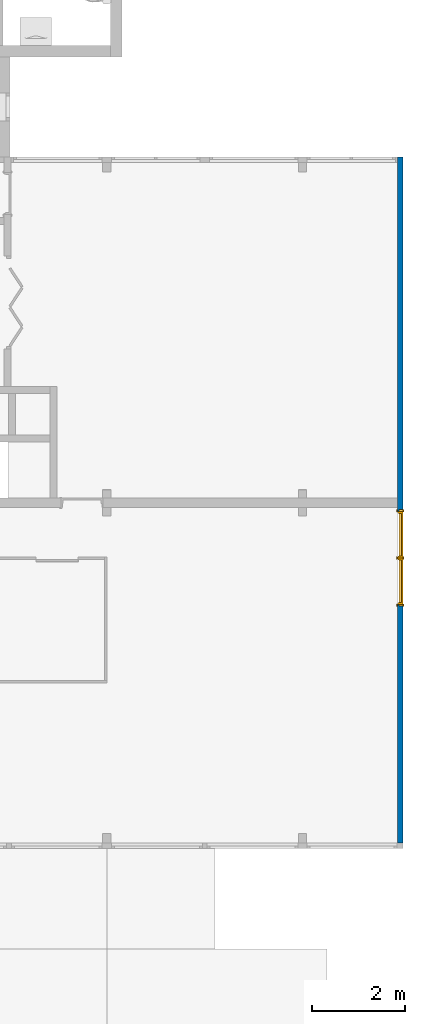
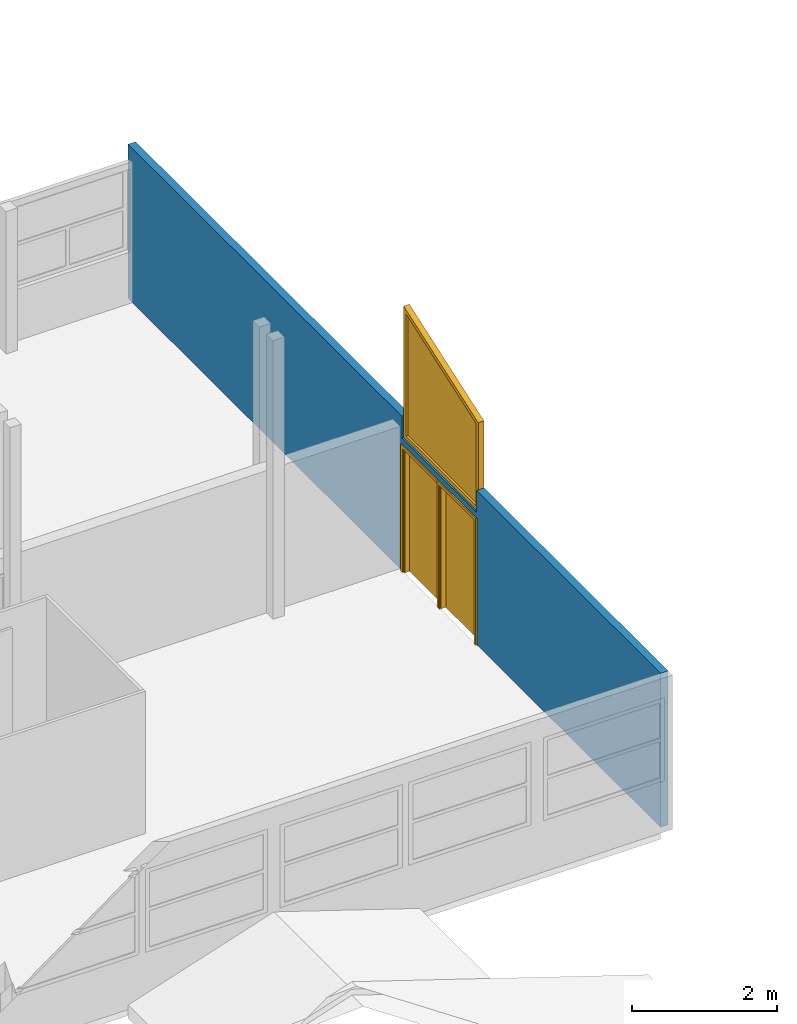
# One storey, part 26 of 48: 2 doors, 1 wall, 1 window, 3 openings.
"""IFC2X3 building model written with IfcOpenShell, lengths in millimetres."""

from ifc_helpers import new_model, entity, si_unit, converted_unit, derived_unit, money_unit, direction, frame, origin_with_axes, place, context, subcontext, project, spatial, open_shell, faceted_brep, surface_model, source, transform, mapped, material, type_object, element, fill, save


model = new_model("IFC2X3")

# Units and contexts
model_context = context("Model", 3, precision=0.01, world=origin_with_axes(), true_north=direction((0.0, 1.0)))
body_context = subcontext(model_context, "Body", "Model", "MODEL_VIEW")
ifc_project = project(units=[si_unit("LENGTHUNIT", "METRE", prefix="MILLI"), si_unit("AREAUNIT", "SQUARE_METRE"), si_unit("VOLUMEUNIT", "CUBIC_METRE"), converted_unit("PLANEANGLEUNIT", "DEGREE", entity("IfcPlaneAngleMeasure", 0.0174532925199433), si_unit("PLANEANGLEUNIT", "RADIAN"), dimensions=[0, 0, 0, 0, 0, 0, 0]), money_unit("USD"), converted_unit("TIMEUNIT", "Year", entity("IfcTimeMeasure", 31557600.0), si_unit("TIMEUNIT", "SECOND"), dimensions=[0, 0, 1, 0, 0, 0, 0]), si_unit("MASSUNIT", "GRAM", prefix="KILO"), si_unit("THERMODYNAMICTEMPERATUREUNIT", "DEGREE_CELSIUS"), si_unit("LUMINOUSINTENSITYUNIT", "LUMEN"), si_unit("ENERGYUNIT", "JOULE", prefix="MEGA"), derived_unit("THERMALCONDUCTANCEUNIT", [(si_unit("POWERUNIT", "WATT"), 1), (si_unit("LENGTHUNIT", "METRE"), -1), (si_unit("THERMODYNAMICTEMPERATUREUNIT", "KELVIN"), -1)]), derived_unit("SPECIFICHEATCAPACITYUNIT", [(si_unit("ENERGYUNIT", "JOULE"), 1), (si_unit("MASSUNIT", "GRAM", prefix="KILO"), -1), (si_unit("THERMODYNAMICTEMPERATUREUNIT", "KELVIN"), -1)]), derived_unit("MASSDENSITYUNIT", [(si_unit("MASSUNIT", "GRAM", prefix="KILO"), 1), (si_unit("VOLUMEUNIT", "CUBIC_METRE"), -1)])], contexts=[model_context])

# Site, building, storey
site_placement = place(None, origin_with_axes())
site = spatial("IfcSite", under=ifc_project, at=site_placement, Name="Site", CompositionType="ELEMENT")
building_placement = place(site_placement, origin_with_axes())
building = spatial("IfcBuilding", under=site, at=building_placement, Name="Building", CompositionType="ELEMENT")
storey_placement = place(building_placement, frame((0.0, 0.0, 3300.0), z_axis=(0.0, 0.0, 1.0), x_axis=(1.0, 0.0, 0.0)))
storey = spatial("IfcBuildingStorey", under=building, at=storey_placement, Name="1 ETG", CompositionType="ELEMENT", Elevation=3300.0)

# Wall, openings, window, doors
ifc_material = material(Name="GENERIC - STRUCTURAL")
wall_type = type_object("IfcWallType", Name="GENERIC - STRUCTURAL 120", PredefinedType="NOTDEFINED")
wall_placement = place(storey_placement, frame((72389.99999999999, 7199.874976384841, 0.0), z_axis=(0.0, 0.0, 1.0), x_axis=(0.0, 1.0, 0.0)))
wall = element("IfcWall", 1, at=wall_placement, inside=storey, type_object=wall_type, material=ifc_material, Name="SW - 001", context=body_context, shape_type="Brep", body=[
    faceted_brep([(7114.97377159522, -119.9999999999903, 2100.0), (7114.97377159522, -119.9999999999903, 0.0), (14720.00043416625, -119.9999999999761, 0.0), (14720.00043416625, -119.9999999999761, 2600.0), (7151.973771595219, -119.9999999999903, 2600.0), (7151.973771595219, -119.9999999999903, 2229.71220870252), (5087.903589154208, -119.9999999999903, 2229.71220870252), (5087.903589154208, -119.9999999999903, 2600.0), (0.0, -120.0000000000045, 2600.0), (0.0, -120.0000000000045, 0.0), (5114.97377159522, -119.9999999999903, 0.0), (5114.97377159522, -119.9999999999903, 2100.0), (6114.97377159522, -119.9999999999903, 2100.0), (7114.97377159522, 0.0, 2100.0), (7114.97377159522, 0.0, 0.0), (14720.00043416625, 0.0, 0.0), (14720.00043416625, 0.0, 2600.0), (7151.973771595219, 0.0, 2600.0), (7151.973771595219, 0.0, 2229.71220870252), (5087.903589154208, 0.0, 2229.71220870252), (5087.903589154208, 0.0, 2600.0), (-0.000212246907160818, 0.0, 2600.0), (-0.000212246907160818, 0.0, 0.0), (5114.97377159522, 0.0, 0.0), (5114.97377159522, 0.0, 2100.0), (6114.97377159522, 0.0, 2100.0)], [[[0, 1, 2, 3, 4, 5, 6, 7, 8, 9, 10, 11, 12]], [[1, 0, 13, 14]], [[1, 14, 15, 2]], [[3, 2, 15, 16]], [[3, 16, 17, 4]], [[17, 18, 5, 4]], [[18, 19, 6, 5]], [[6, 19, 20, 7]], [[21, 8, 7, 20]], [[8, 21, 22, 9]], [[10, 9, 22, 23]], [[10, 23, 24, 11]], [[25, 13, 0, 12, 11, 24]], [[13, 25, 24, 23, 22, 21, 20, 19, 18, 17, 16, 15, 14]]]),
])
opening_1_placement = place(wall_placement, frame((6614.973771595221, 0.0, 0.0), z_axis=(0.0, 0.0, 1.0), x_axis=(1.0, 0.0, 0.0)))
opening_1 = element("IfcOpeningElement", 2, at=opening_1_placement, cuts=wall, Name="DOO - 002", context=body_context, shape_type="Brep", body=[
    faceted_brep([(500.0, -121.0000000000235, 0.0), (500.0, -121.0000000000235, 2100.0), (-500.0, -121.0000000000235, 2100.0), (-500.0, -121.0000000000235, 0.0), (537.0000000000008, -121.0000000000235, 0.0), (537.0000000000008, -121.0000000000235, 2137.0), (-537.0000000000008, -121.0000000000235, 2137.0), (-537.0000000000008, -121.0000000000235, 0.0), (500.0, -119.9999999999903, 0.0), (-500.0, -119.9999999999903, 0.0), (-500.0, 0.0, 0.0), (-500.0, 1.000000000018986, 0.0), (500.0, 1.000000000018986, 0.0), (500.0, 0.0, 0.0), (537.0000000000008, -119.9999999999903, 0.0), (537.0000000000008, -119.9999999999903, 2137.0), (-537.0000000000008, -119.9999999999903, 2137.0), (-537.0000000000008, -119.9999999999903, 0.0), (-500.0, -119.9999999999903, 2100.0), (-500.0, 0.0, 2100.0), (-537.0000000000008, 0.0, 0.0), (-537.0000000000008, 1.000000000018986, 0.0), (-537.0000000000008, 1.000000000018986, 2137.0), (537.0000000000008, 1.000000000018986, 2137.0), (537.0000000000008, 1.000000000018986, 0.0), (537.0000000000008, 0.0, 0.0), (500.0, -119.9999999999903, 2100.0), (500.0, 0.0, 2100.0), (537.0000000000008, 0.0, 2137.0), (-537.0000000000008, 0.0, 2137.0)], [[[0, 1, 2, 3]], [[2, 1, 0, 4, 5, 6, 7, 3]], [[8, 0, 3, 9, 10, 11, 12, 13]], [[0, 8, 14, 4]], [[14, 15, 5, 4]], [[15, 16, 6, 5]], [[16, 17, 7, 6]], [[9, 3, 7, 17]], [[9, 18, 19, 10]], [[11, 10, 20, 21]], [[12, 11, 21, 22, 23, 24]], [[13, 12, 24, 25]], [[26, 8, 13, 27]], [[8, 26, 18, 9, 17, 16, 15, 14]], [[18, 26, 27, 19]], [[19, 27, 13, 25, 28, 29, 20, 10]], [[20, 29, 22, 21]], [[29, 28, 23, 22]], [[28, 25, 24, 23]]]),
])
opening_2_placement = place(wall_placement, frame((6119.938680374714, 0.0, 2229.71220870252), z_axis=(0.0, 0.0, 1.0), x_axis=(1.0, 0.0, 0.0)))
opening_2 = element("IfcOpeningElement", 3, at=opening_2_placement, cuts=wall, Name="WD - 001", context=body_context, shape_type="Brep", body=[
    faceted_brep([(1032.035091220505, 1.000000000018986, 2217.96647388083), (1032.035091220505, 1.000000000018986, 0.0), (-1032.035091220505, 1.000000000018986, 0.0), (-1032.035091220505, 1.000000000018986, 1500.0), (1032.035091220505, -121.0000000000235, 2217.96647388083), (1032.035091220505, -121.0000000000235, 0.0), (-1032.035091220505, -121.0000000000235, 0.0), (-1032.035091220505, -121.0000000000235, 1500.0)], [[[0, 1, 2, 3]], [[4, 5, 1, 0]], [[5, 6, 2, 1]], [[6, 7, 3, 2]], [[7, 4, 0, 3]], [[6, 5, 4, 7]]]),
])
opening_3_placement = place(wall_placement, frame((5614.973771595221, 0.0, 0.0), z_axis=(0.0, 0.0, 1.0), x_axis=(1.0, 0.0, 0.0)))
opening_3 = element("IfcOpeningElement", 4, at=opening_3_placement, cuts=wall, Name="DOO - 002", context=body_context, shape_type="Brep", body=[
    faceted_brep([(500.0, -121.0000000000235, 0.0), (500.0, -121.0000000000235, 2100.0), (-500.0, -121.0000000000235, 2100.0), (-500.0, -121.0000000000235, 0.0), (537.0000000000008, -121.0000000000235, 0.0), (537.0000000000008, -121.0000000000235, 2137.0), (-537.0000000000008, -121.0000000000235, 2137.0), (-537.0000000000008, -121.0000000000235, 0.0), (500.0, -119.9999999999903, 0.0), (-500.0, -119.9999999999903, 0.0), (-500.0, 0.0, 0.0), (-500.0, 1.000000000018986, 0.0), (500.0, 1.000000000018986, 0.0), (500.0, 0.0, 0.0), (537.0000000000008, -119.9999999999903, 0.0), (537.0000000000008, -119.9999999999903, 2137.0), (-537.0000000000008, -119.9999999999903, 2137.0), (-537.0000000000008, -119.9999999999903, 0.0), (-500.0, -119.9999999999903, 2100.0), (-500.0, 0.0, 2100.0), (-537.0000000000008, 0.0, 0.0), (-537.0000000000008, 1.000000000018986, 0.0), (-537.0000000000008, 1.000000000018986, 2137.0), (537.0000000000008, 1.000000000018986, 2137.0), (537.0000000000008, 1.000000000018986, 0.0), (537.0000000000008, 0.0, 0.0), (500.0, -119.9999999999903, 2100.0), (500.0, 0.0, 2100.0), (537.0000000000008, 0.0, 2137.0), (-537.0000000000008, 0.0, 2137.0)], [[[0, 1, 2, 3]], [[2, 1, 0, 4, 5, 6, 7, 3]], [[8, 0, 3, 9, 10, 11, 12, 13]], [[0, 8, 14, 4]], [[14, 15, 5, 4]], [[15, 16, 6, 5]], [[16, 17, 7, 6]], [[9, 3, 7, 17]], [[9, 18, 19, 10]], [[11, 10, 20, 21]], [[12, 11, 21, 22, 23, 24]], [[13, 12, 24, 25]], [[26, 8, 13, 27]], [[8, 26, 18, 9, 17, 16, 15, 14]], [[18, 26, 27, 19]], [[19, 27, 13, 25, 28, 29, 20, 10]], [[20, 29, 22, 21]], [[29, 28, 23, 22]], [[28, 25, 24, 23]]]),
])
window_style = type_object("IfcWindowStyle", Name="Vindu med skrå topp", ConstructionType="NOTDEFINED", OperationType="USERDEFINED", ParameterTakesPrecedence=False, Sizeable=False)
shared_shape = source(origin_with_axes(), body_context, "Body", "SurfaceModel", [
    faceted_brep([(966.0350912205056, -92.00000000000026, 2125.130239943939), (1032.035091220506, -92.00000000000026, 2125.130239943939), (1032.035091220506, 0.0, 2125.130239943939), (966.0350912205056, 0.0, 2125.130239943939), (966.0350912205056, -92.0, 66.0), (1032.035091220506, -92.0, 66.0), (1032.035091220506, 0.0, 66.0), (966.0350912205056, 0.0, 66.0)], [[[0, 1, 2, 3]], [[0, 4, 5, 1]], [[1, 5, 6, 2]], [[3, 2, 6, 7]], [[4, 0, 3, 7]], [[5, 4, 7, 6]]]),
    faceted_brep([(-966.0350912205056, -92.0, 66.0), (-1032.035091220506, -92.0, 66.0), (-1032.035091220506, 0.0, 66.0), (-966.0350912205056, 0.0, 66.0), (-966.0350912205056, -92.00000000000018, 1453.078665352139), (-1032.035091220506, -92.00000000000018, 1453.078665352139), (-1032.035091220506, 0.0, 1453.078665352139), (-966.0350912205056, 0.0, 1453.078665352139)], [[[0, 1, 2, 3]], [[0, 4, 5, 1]], [[1, 5, 6, 2]], [[3, 2, 6, 7]], [[4, 0, 3, 7]], [[5, 4, 7, 6]]]),
    faceted_brep([(1032.035091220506, -92.00000000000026, 2217.96647388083), (1032.035091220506, -92.00000000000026, 2125.130239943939), (1032.035091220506, 0.0, 2125.130239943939), (1032.035091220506, 0.0, 2217.96647388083), (-1032.035091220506, -92.00000000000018, 1500.0), (-1032.035091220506, -92.00000000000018, 1453.078665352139), (-966.0350912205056, -92.00000000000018, 1453.078665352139), (966.0350912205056, -92.00000000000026, 2125.130239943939), (966.0350912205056, 0.0, 2125.130239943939), (-966.0350912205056, 0.0, 1453.078665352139), (-1032.035091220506, 0.0, 1453.078665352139), (-1032.035091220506, 0.0, 1500.0)], [[[0, 1, 2, 3]], [[0, 4, 5, 6, 7, 1]], [[1, 7, 8, 2]], [[3, 2, 8, 9, 10, 11]], [[4, 0, 3, 11]], [[5, 4, 11, 10]], [[6, 5, 10, 9]], [[7, 6, 9, 8]]]),
    faceted_brep([(-1032.035091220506, -92.0, 0.0), (-1032.035091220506, -92.0, 66.0), (-1032.035091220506, 0.0, 66.0), (-1032.035091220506, 0.0, 0.0), (1032.035091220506, -92.0, 0.0), (1032.035091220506, -92.0, 66.0), (966.0350912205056, -92.0, 66.0), (-966.0350912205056, -92.0, 66.0), (-966.0350912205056, 0.0, 66.0), (966.0350912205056, 0.0, 66.0), (1032.035091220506, 0.0, 66.0), (1032.035091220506, 0.0, 0.0)], [[[0, 1, 2, 3]], [[0, 4, 5, 6, 7, 1]], [[1, 7, 8, 2]], [[3, 2, 8, 9, 10, 11]], [[4, 0, 3, 11]], [[5, 4, 11, 10]], [[6, 5, 10, 9]], [[7, 6, 9, 8]]]),
    surface_model("IfcShellBasedSurfaceModel", [(966.0350912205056, -56.0, 66.0), (966.0350912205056, -56.00000000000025, 2125.130239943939), (-966.0350912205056, -56.00000000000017, 1453.078665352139), (-966.0350912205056, -56.0, 66.0)], [open_shell([[[0, 1, 2, 3]]])]),
    surface_model("IfcShellBasedSurfaceModel", [(966.0350912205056, -36.00000000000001, 66.0), (-966.0350912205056, -36.00000000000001, 66.0), (-966.0350912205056, -36.00000000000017, 1453.078665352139), (966.0350912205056, -36.00000000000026, 2125.130239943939)], [open_shell([[[0, 1, 2, 3]]])]),
])
window_placement = place(opening_2_placement, frame((-1032.035091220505, 0.0, 0.0), z_axis=(0.0, 0.0, 1.0), x_axis=(1.0, 0.0, 0.0)))
window = element("IfcWindow", 5, at=window_placement, inside=storey, type_object=window_style, Name="WD - 001", ObjectType="WINDOW", OverallHeight=2217.97, OverallWidth=2064.07, context=body_context, shape_type="MappedRepresentation", body=[
    mapped(shared_shape, transform((1032.035091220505, -27.99999999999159, 0.0))),
])
fill(opening_2, window)
door_style_1 = type_object("IfcDoorStyle", Name="Dør", ConstructionType="NOTDEFINED", OperationType="SINGLE_SWING_LEFT", ParameterTakesPrecedence=False, Sizeable=False)
door_1_placement = place(opening_1_placement, frame((500.0, 0.0, 0.0), z_axis=(0.0, 0.0, 1.0), x_axis=(-1.0, 0.0, 0.0)))
door_1 = element("IfcDoor", 6, at=door_1_placement, inside=storey, type_object=door_style_1, Name="DOO - 002", ObjectType="DOOR", OverallHeight=2100.0, OverallWidth=1000.0, context=body_context, shape_type="Brep", body=[
    faceted_brep([(1000.0, 4.999999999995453, 0.0), (1000.0, 0.0, 0.0), (974.9999999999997, 0.0, 0.0), (974.9999999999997, 4.999999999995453, 0.0), (1000.0, 4.999999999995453, 2100.0), (1000.0, 0.0, 2100.0), (974.9999999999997, 0.0, 2075.0), (974.9999999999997, 4.999999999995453, 2075.0)], [[[0, 1, 2, 3]], [[4, 5, 1, 0]], [[1, 5, 6, 2]], [[3, 2, 6, 7]], [[0, 3, 7, 4]], [[7, 6, 5, 4]]]),
    faceted_brep([(0.0, 4.999999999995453, 2100.0), (0.0, 0.0, 2100.0), (25.00000000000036, 0.0, 2075.0), (25.00000000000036, 4.999999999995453, 2075.0), (0.0, 4.999999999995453, 0.0), (0.0, 0.0, 0.0), (25.00000000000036, 0.0, 0.0), (25.00000000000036, 4.999999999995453, 0.0)], [[[0, 1, 2, 3]], [[4, 5, 1, 0]], [[1, 5, 6, 2]], [[3, 2, 6, 7]], [[0, 3, 7, 4]], [[7, 6, 5, 4]]]),
    faceted_brep([(974.9999999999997, 4.999999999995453, 2075.0), (974.9999999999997, 0.0, 2075.0), (25.00000000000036, 0.0, 2075.0), (25.00000000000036, 4.999999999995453, 2075.0), (1000.0, 4.999999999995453, 2100.0), (1000.0, 0.0, 2100.0), (0.0, 0.0, 2100.0), (0.0, 4.999999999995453, 2100.0)], [[[0, 1, 2, 3]], [[4, 5, 1, 0]], [[1, 5, 6, 2]], [[3, 2, 6, 7]], [[0, 3, 7, 4]], [[7, 6, 5, 4]]]),
    faceted_brep([(1037.000000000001, -19.00000000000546, 0.0), (987.0000000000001, -19.00000000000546, 0.0), (987.0000000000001, 0.0, 0.0), (1037.000000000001, 0.0, 0.0), (1037.000000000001, -19.00000000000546, 2137.0), (987.0000000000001, -19.00000000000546, 2087.0), (987.0000000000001, 0.0, 2087.0), (1037.000000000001, 0.0, 2137.0)], [[[0, 1, 2, 3]], [[0, 4, 5, 1]], [[1, 5, 6, 2]], [[3, 2, 6, 7]], [[4, 0, 3, 7]], [[5, 4, 7, 6]]]),
    faceted_brep([(-37.00000000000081, -19.00000000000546, 2137.0), (12.9999999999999, -19.00000000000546, 2087.0), (12.9999999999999, 0.0, 2087.0), (-37.00000000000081, 0.0, 2137.0), (-37.00000000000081, -19.00000000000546, 0.0), (12.9999999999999, -19.00000000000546, 0.0), (12.9999999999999, 0.0, 0.0), (-37.00000000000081, 0.0, 0.0)], [[[0, 1, 2, 3]], [[0, 4, 5, 1]], [[1, 5, 6, 2]], [[3, 2, 6, 7]], [[4, 0, 3, 7]], [[5, 4, 7, 6]]]),
    faceted_brep([(1037.000000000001, -19.00000000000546, 2137.0), (987.0000000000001, -19.00000000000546, 2087.0), (987.0000000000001, 0.0, 2087.0), (1037.000000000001, 0.0, 2137.0), (-37.00000000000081, -19.00000000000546, 2137.0), (12.9999999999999, -19.00000000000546, 2087.0), (12.9999999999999, 0.0, 2087.0), (-37.00000000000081, 0.0, 2137.0)], [[[0, 1, 2, 3]], [[0, 4, 5, 1]], [[1, 5, 6, 2]], [[3, 2, 6, 7]], [[4, 0, 3, 7]], [[5, 4, 7, 6]]]),
    faceted_brep([(1037.000000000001, 138.9999999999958, 0.0), (1037.000000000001, 119.9999999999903, 0.0), (987.0000000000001, 119.9999999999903, 0.0), (987.0000000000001, 138.9999999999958, 0.0), (1037.000000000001, 138.9999999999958, 2137.0), (1037.000000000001, 119.9999999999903, 2137.0), (987.0000000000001, 119.9999999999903, 2087.0), (987.0000000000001, 138.9999999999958, 2087.0)], [[[0, 1, 2, 3]], [[4, 5, 1, 0]], [[1, 5, 6, 2]], [[3, 2, 6, 7]], [[0, 3, 7, 4]], [[7, 6, 5, 4]]]),
    faceted_brep([(-37.00000000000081, 138.9999999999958, 2137.0), (-37.00000000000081, 119.9999999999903, 2137.0), (12.9999999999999, 119.9999999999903, 2087.0), (12.9999999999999, 138.9999999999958, 2087.0), (-37.00000000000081, 138.9999999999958, 0.0), (-37.00000000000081, 119.9999999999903, 0.0), (12.9999999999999, 119.9999999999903, 0.0), (12.9999999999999, 138.9999999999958, 0.0)], [[[0, 1, 2, 3]], [[4, 5, 1, 0]], [[1, 5, 6, 2]], [[3, 2, 6, 7]], [[0, 3, 7, 4]], [[7, 6, 5, 4]]]),
    faceted_brep([(1037.000000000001, 138.9999999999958, 2137.0), (1037.000000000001, 119.9999999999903, 2137.0), (987.0000000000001, 119.9999999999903, 2087.0), (987.0000000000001, 138.9999999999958, 2087.0), (-37.00000000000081, 138.9999999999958, 2137.0), (-37.00000000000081, 119.9999999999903, 2137.0), (12.9999999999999, 119.9999999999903, 2087.0), (12.9999999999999, 138.9999999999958, 2087.0)], [[[0, 1, 2, 3]], [[4, 5, 1, 0]], [[1, 5, 6, 2]], [[3, 2, 6, 7]], [[0, 3, 7, 4]], [[7, 6, 5, 4]]]),
    faceted_brep([(1000.0, 119.9999999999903, 0.0), (1000.0, 4.999999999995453, 0.0), (960.0000000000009, 4.999999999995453, 0.0), (960.0000000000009, 119.9999999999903, 0.0), (1000.0, 119.9999999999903, 2060.0), (1000.0, 4.999999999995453, 2060.0), (960.0000000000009, 4.999999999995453, 2060.0), (960.0000000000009, 119.9999999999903, 2060.0)], [[[0, 1, 2, 3]], [[4, 5, 1, 0]], [[1, 5, 6, 2]], [[3, 2, 6, 7]], [[0, 3, 7, 4]], [[7, 6, 5, 4]]]),
    faceted_brep([(0.0, 119.9999999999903, 0.0), (0.0, 4.999999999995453, 0.0), (0.0, 4.999999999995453, 2060.0), (0.0, 119.9999999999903, 2060.0), (39.99999999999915, 119.9999999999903, 0.0), (39.99999999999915, 4.999999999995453, 0.0), (39.99999999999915, 4.999999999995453, 2060.0), (39.99999999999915, 119.9999999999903, 2060.0)], [[[0, 1, 2, 3]], [[4, 5, 1, 0]], [[1, 5, 6, 2]], [[3, 2, 6, 7]], [[0, 3, 7, 4]], [[7, 6, 5, 4]]]),
    faceted_brep([(1000.0, 119.9999999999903, 2100.0), (1000.0, 4.999999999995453, 2100.0), (1000.0, 4.999999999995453, 2060.0), (1000.0, 119.9999999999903, 2060.0), (0.0, 119.9999999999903, 2100.0), (0.0, 4.999999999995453, 2100.0), (0.0, 4.999999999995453, 2060.0), (39.99999999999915, 4.999999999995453, 2060.0), (960.0000000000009, 4.999999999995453, 2060.0), (960.0000000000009, 119.9999999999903, 2060.0), (39.99999999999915, 119.9999999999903, 2060.0), (0.0, 119.9999999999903, 2060.0)], [[[0, 1, 2, 3]], [[4, 5, 1, 0]], [[1, 5, 6, 7, 8, 2]], [[3, 2, 8, 9]], [[0, 3, 9, 10, 11, 4]], [[11, 6, 5, 4]], [[10, 7, 6, 11]], [[9, 8, 7, 10]]]),
    faceted_brep([(40.00000000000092, 119.9999999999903, 0.0), (960.0000000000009, 119.9999999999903, 0.0), (960.0000000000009, 79.99999999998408, 0.0), (40.00000000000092, 79.99999999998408, 0.0), (40.00000000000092, 119.9999999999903, 2060.0), (960.0000000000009, 119.9999999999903, 2060.0), (960.0000000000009, 79.99999999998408, 2060.0), (40.00000000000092, 79.99999999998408, 2060.0)], [[[0, 1, 2, 3]], [[0, 4, 5, 1]], [[1, 5, 6, 2]], [[3, 2, 6, 7]], [[4, 0, 3, 7]], [[5, 4, 7, 6]]]),
])
fill(opening_1, door_1)
door_style_2 = type_object("IfcDoorStyle", Name="Dør", ConstructionType="NOTDEFINED", OperationType="SINGLE_SWING_RIGHT", ParameterTakesPrecedence=False, Sizeable=False)
door_2_placement = place(opening_3_placement, frame((500.0, 0.0, 0.0), z_axis=(0.0, 0.0, 1.0), x_axis=(-1.0, 0.0, 0.0)))
door_2 = element("IfcDoor", 7, at=door_2_placement, inside=storey, type_object=door_style_2, Name="DOO - 002", ObjectType="DOOR", OverallHeight=2100.0, OverallWidth=1000.0, context=body_context, shape_type="Brep", body=[
    faceted_brep([(0.0, 4.999999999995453, 0.0), (25.00000000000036, 4.999999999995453, 0.0), (25.00000000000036, 0.0, 0.0), (0.0, 0.0, 0.0), (0.0, 4.999999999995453, 2100.0), (25.00000000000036, 4.999999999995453, 2075.0), (25.00000000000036, 0.0, 2075.0), (0.0, 0.0, 2100.0)], [[[0, 1, 2, 3]], [[0, 4, 5, 1]], [[1, 5, 6, 2]], [[3, 2, 6, 7]], [[4, 0, 3, 7]], [[5, 4, 7, 6]]]),
    faceted_brep([(1000.0, 4.999999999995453, 2100.0), (974.9999999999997, 4.999999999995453, 2075.0), (974.9999999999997, 0.0, 2075.0), (1000.0, 0.0, 2100.0), (1000.0, 4.999999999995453, 0.0), (974.9999999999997, 4.999999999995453, 0.0), (974.9999999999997, 0.0, 0.0), (1000.0, 0.0, 0.0)], [[[0, 1, 2, 3]], [[0, 4, 5, 1]], [[1, 5, 6, 2]], [[3, 2, 6, 7]], [[4, 0, 3, 7]], [[5, 4, 7, 6]]]),
    faceted_brep([(25.00000000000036, 4.999999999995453, 2075.0), (974.9999999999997, 4.999999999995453, 2075.0), (974.9999999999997, 0.0, 2075.0), (25.00000000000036, 0.0, 2075.0), (0.0, 4.999999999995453, 2100.0), (1000.0, 4.999999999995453, 2100.0), (1000.0, 0.0, 2100.0), (0.0, 0.0, 2100.0)], [[[0, 1, 2, 3]], [[0, 4, 5, 1]], [[1, 5, 6, 2]], [[3, 2, 6, 7]], [[4, 0, 3, 7]], [[5, 4, 7, 6]]]),
    faceted_brep([(-37.00000000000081, -19.00000000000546, 0.0), (-37.00000000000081, 0.0, 0.0), (12.9999999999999, 0.0, 0.0), (12.9999999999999, -19.00000000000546, 0.0), (-37.00000000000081, -19.00000000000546, 2137.0), (-37.00000000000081, 0.0, 2137.0), (12.9999999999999, 0.0, 2087.0), (12.9999999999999, -19.00000000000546, 2087.0)], [[[0, 1, 2, 3]], [[4, 5, 1, 0]], [[1, 5, 6, 2]], [[3, 2, 6, 7]], [[0, 3, 7, 4]], [[7, 6, 5, 4]]]),
    faceted_brep([(1037.000000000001, -19.00000000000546, 2137.0), (1037.000000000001, 0.0, 2137.0), (987.0000000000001, 0.0, 2087.0), (987.0000000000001, -19.00000000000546, 2087.0), (1037.000000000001, -19.00000000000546, 0.0), (1037.000000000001, 0.0, 0.0), (987.0000000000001, 0.0, 0.0), (987.0000000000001, -19.00000000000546, 0.0)], [[[0, 1, 2, 3]], [[4, 5, 1, 0]], [[1, 5, 6, 2]], [[3, 2, 6, 7]], [[0, 3, 7, 4]], [[7, 6, 5, 4]]]),
    faceted_brep([(-37.00000000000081, -19.00000000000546, 2137.0), (-37.00000000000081, 0.0, 2137.0), (12.9999999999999, 0.0, 2087.0), (12.9999999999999, -19.00000000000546, 2087.0), (1037.000000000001, -19.00000000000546, 2137.0), (1037.000000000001, 0.0, 2137.0), (987.0000000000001, 0.0, 2087.0), (987.0000000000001, -19.00000000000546, 2087.0)], [[[0, 1, 2, 3]], [[4, 5, 1, 0]], [[1, 5, 6, 2]], [[3, 2, 6, 7]], [[0, 3, 7, 4]], [[7, 6, 5, 4]]]),
    faceted_brep([(-37.00000000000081, 138.9999999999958, 0.0), (12.9999999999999, 138.9999999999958, 0.0), (12.9999999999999, 119.9999999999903, 0.0), (-37.00000000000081, 119.9999999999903, 0.0), (-37.00000000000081, 138.9999999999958, 2137.0), (12.9999999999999, 138.9999999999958, 2087.0), (12.9999999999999, 119.9999999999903, 2087.0), (-37.00000000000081, 119.9999999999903, 2137.0)], [[[0, 1, 2, 3]], [[0, 4, 5, 1]], [[1, 5, 6, 2]], [[3, 2, 6, 7]], [[4, 0, 3, 7]], [[5, 4, 7, 6]]]),
    faceted_brep([(1037.000000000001, 138.9999999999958, 2137.0), (987.0000000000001, 138.9999999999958, 2087.0), (987.0000000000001, 119.9999999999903, 2087.0), (1037.000000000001, 119.9999999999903, 2137.0), (1037.000000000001, 138.9999999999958, 0.0), (987.0000000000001, 138.9999999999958, 0.0), (987.0000000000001, 119.9999999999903, 0.0), (1037.000000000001, 119.9999999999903, 0.0)], [[[0, 1, 2, 3]], [[0, 4, 5, 1]], [[1, 5, 6, 2]], [[3, 2, 6, 7]], [[4, 0, 3, 7]], [[5, 4, 7, 6]]]),
    faceted_brep([(-37.00000000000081, 138.9999999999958, 2137.0), (12.9999999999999, 138.9999999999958, 2087.0), (12.9999999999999, 119.9999999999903, 2087.0), (-37.00000000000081, 119.9999999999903, 2137.0), (1037.000000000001, 138.9999999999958, 2137.0), (987.0000000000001, 138.9999999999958, 2087.0), (987.0000000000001, 119.9999999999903, 2087.0), (1037.000000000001, 119.9999999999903, 2137.0)], [[[0, 1, 2, 3]], [[0, 4, 5, 1]], [[1, 5, 6, 2]], [[3, 2, 6, 7]], [[4, 0, 3, 7]], [[5, 4, 7, 6]]]),
    faceted_brep([(0.0, 119.9999999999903, 0.0), (39.99999999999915, 119.9999999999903, 0.0), (39.99999999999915, 4.999999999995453, 0.0), (0.0, 4.999999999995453, 0.0), (0.0, 119.9999999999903, 2060.0), (39.99999999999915, 119.9999999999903, 2060.0), (39.99999999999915, 4.999999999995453, 2060.0), (0.0, 4.999999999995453, 2060.0)], [[[0, 1, 2, 3]], [[0, 4, 5, 1]], [[1, 5, 6, 2]], [[3, 2, 6, 7]], [[4, 0, 3, 7]], [[5, 4, 7, 6]]]),
    faceted_brep([(1000.0, 119.9999999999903, 0.0), (1000.0, 119.9999999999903, 2060.0), (1000.0, 4.999999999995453, 2060.0), (1000.0, 4.999999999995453, 0.0), (960.0000000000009, 119.9999999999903, 0.0), (960.0000000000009, 119.9999999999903, 2060.0), (960.0000000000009, 4.999999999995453, 2060.0), (960.0000000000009, 4.999999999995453, 0.0)], [[[0, 1, 2, 3]], [[0, 4, 5, 1]], [[1, 5, 6, 2]], [[3, 2, 6, 7]], [[4, 0, 3, 7]], [[5, 4, 7, 6]]]),
    faceted_brep([(0.0, 119.9999999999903, 2100.0), (0.0, 119.9999999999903, 2060.0), (0.0, 4.999999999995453, 2060.0), (0.0, 4.999999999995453, 2100.0), (1000.0, 119.9999999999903, 2100.0), (1000.0, 119.9999999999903, 2060.0), (960.0000000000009, 119.9999999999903, 2060.0), (39.99999999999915, 119.9999999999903, 2060.0), (39.99999999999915, 4.999999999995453, 2060.0), (960.0000000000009, 4.999999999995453, 2060.0), (1000.0, 4.999999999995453, 2060.0), (1000.0, 4.999999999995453, 2100.0)], [[[0, 1, 2, 3]], [[0, 4, 5, 6, 7, 1]], [[1, 7, 8, 2]], [[3, 2, 8, 9, 10, 11]], [[4, 0, 3, 11]], [[5, 4, 11, 10]], [[6, 5, 10, 9]], [[7, 6, 9, 8]]]),
    faceted_brep([(959.9999999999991, 119.9999999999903, 0.0), (959.9999999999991, 79.99999999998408, 0.0), (39.99999999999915, 79.99999999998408, 0.0), (39.99999999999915, 119.9999999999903, 0.0), (959.9999999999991, 119.9999999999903, 2060.0), (959.9999999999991, 79.99999999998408, 2060.0), (39.99999999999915, 79.99999999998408, 2060.0), (39.99999999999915, 119.9999999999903, 2060.0)], [[[0, 1, 2, 3]], [[4, 5, 1, 0]], [[1, 5, 6, 2]], [[3, 2, 6, 7]], [[0, 3, 7, 4]], [[7, 6, 5, 4]]]),
])
fill(opening_3, door_2)

save(model, "model.ifc")
